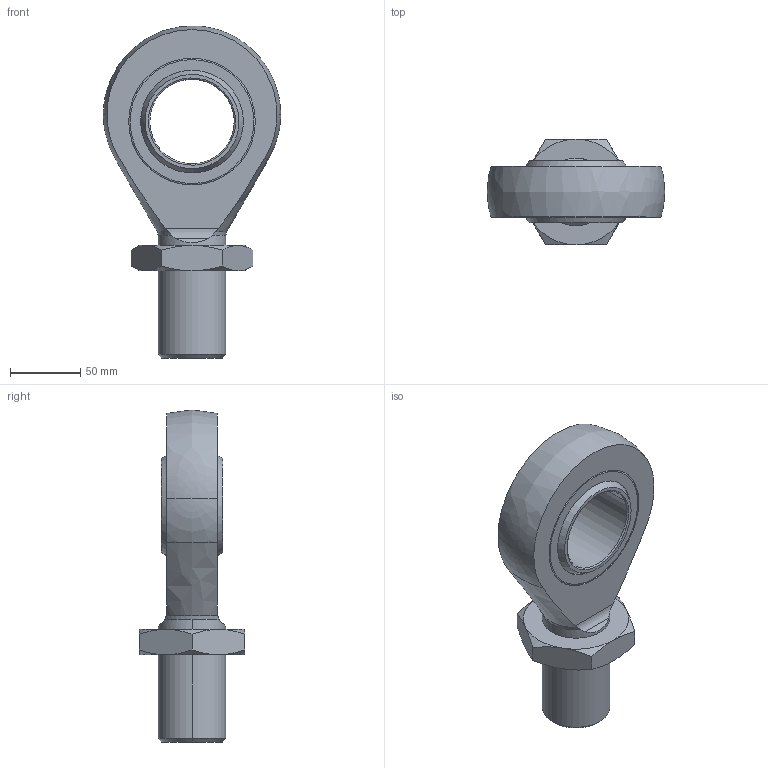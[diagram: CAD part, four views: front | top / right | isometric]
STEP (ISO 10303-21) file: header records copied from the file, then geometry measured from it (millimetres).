
FILE_DESCRIPTION((''),'2;1');
FILE_NAME('KNUCKLE_EYE_U2B_200KN_ZGUW','2018-03-06T',('esche'),(''),'CREO PARAMETRIC BY PTC INC, 2017170','CREO PARAMETRIC BY PTC INC, 2017170','');
FILE_SCHEMA(('CONFIG_CONTROL_DESIGN'));
Length unit declared in the file: millimetre
Products named in the file (1): KNUCKLE_EYE_U2B_200KN_ZGUW
Bounding box: 126 x 75 x 235.89 mm (x, y, z)
Volume: 615423.4 mm3; surface area: 68423.3 mm2
Topology: 1 solids, 1 shells, 70 faces, 170 edges, 105 vertices
Faces by surface type: bspline 70
Entity records: 4203 total; most frequent: CARTESIAN_POINT 2730, ORIENTED_EDGE 328, DIRECTION 212, EDGE_CURVE 164, VERTEX_POINT 105, AXIS2_PLACEMENT_3D 90, CIRCLE 90, EDGE_LOOP 81
